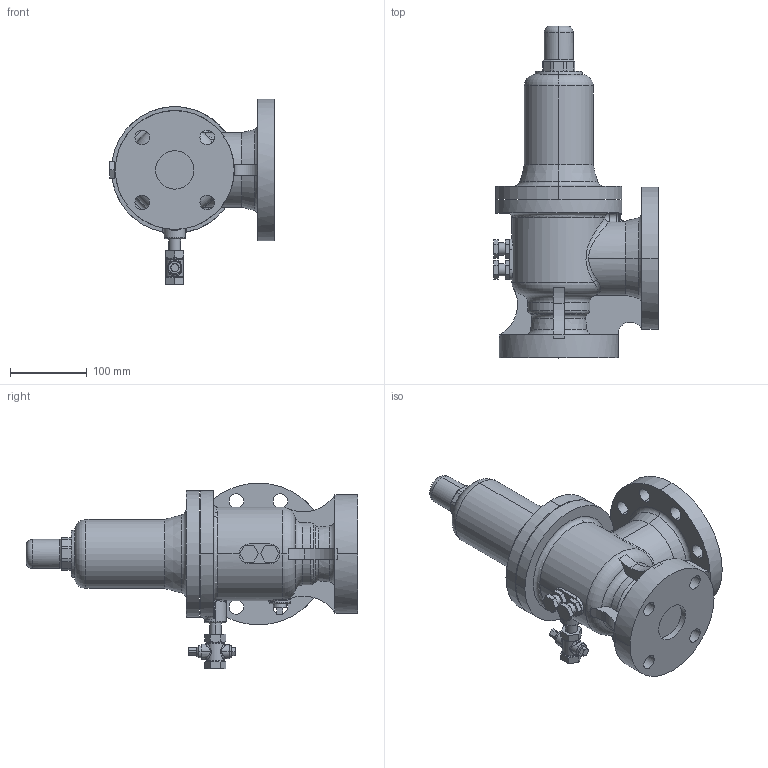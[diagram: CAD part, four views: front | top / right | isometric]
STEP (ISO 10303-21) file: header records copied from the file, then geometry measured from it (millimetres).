
FILE_DESCRIPTION (( 'STEP AP203' ), '1' );
FILE_NAME ('AF-4M 50A.STEP', '2024-07-29T05:24:18', ( '' ), ( '' ), 'SwSTEP 2.0', 'SolidWorks 2024', '' );
FILE_SCHEMA (( 'CONFIG_CONTROL_DESIGN' ));
Length unit declared in the file: millimetre
Products named in the file (6): AF-4M 50A; 背圧絞り弁 50A; 止めボルト 50A; プラグ 10A; AF-4 本体部P 50A; キャップ 50A
Assembly tree (6 placements, depth 2):
  AF-4M 50A
    AF-4 本体部P 50A
    止めボルト 50A  x2
    プラグ 10A
    背圧絞り弁 50A
    キャップ 50A
Bounding box: 215 x 433 x 242.5 mm (x, y, z)
Volume: 4768584.1 mm3; surface area: 340807.6 mm2
Topology: 6 solids, 6 shells, 386 faces, 946 edges, 588 vertices
Faces by surface type: plane 149, cylinder 102, torus 54, cone 50, bspline 29, sphere 2
Entity records: 16729 total; most frequent: CARTESIAN_POINT 7599, ORIENTED_EDGE 1802, DIRECTION 1753, EDGE_CURVE 901, AXIS2_PLACEMENT_3D 712, VERTEX_POINT 559, EDGE_LOOP 408, FACE_OUTER_BOUND 368
